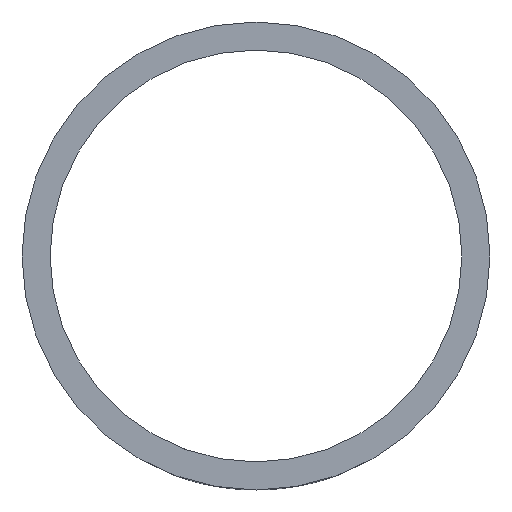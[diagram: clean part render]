
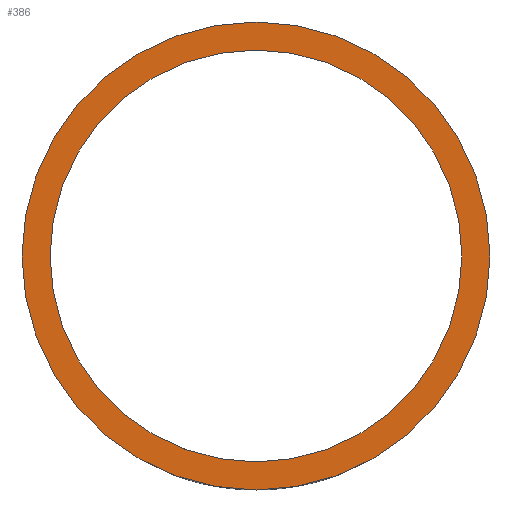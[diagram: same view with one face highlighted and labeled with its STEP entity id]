
A CAD part, left-side view. The second image highlights one B-rep face of the part: STEP entity #386.
In plain terms, the highlighted planar face has unit normal (-1, 0, 0).
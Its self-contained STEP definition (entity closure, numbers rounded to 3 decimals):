
#10 = VERTEX_POINT ( 'NONE', #191 ) ;
#64 = AXIS2_PLACEMENT_3D ( 'NONE', #73, #174, #550 ) ;
#65 = EDGE_LOOP ( 'NONE', ( #212, #592 ) ) ;
#73 = CARTESIAN_POINT ( 'NONE',  ( -100., 0., 0. ) ) ;
#81 = ORIENTED_EDGE ( 'NONE', *, *, #393, .F. ) ;
#101 = VERTEX_POINT ( 'NONE', #133 ) ;
#128 = CARTESIAN_POINT ( 'NONE',  ( -100., 0., 0. ) ) ;
#133 = CARTESIAN_POINT ( 'NONE',  ( -100., 0., -12.5 ) ) ;
#174 = DIRECTION ( 'NONE',  ( 1., 0., 0. ) ) ;
#178 = FACE_OUTER_BOUND ( 'NONE', #345, .T. ) ;
#184 = CIRCLE ( 'NONE', #633, 12.5 ) ;
#191 = CARTESIAN_POINT ( 'NONE',  ( -100., 0., 12.5 ) ) ;
#212 = ORIENTED_EDGE ( 'NONE', *, *, #377, .T. ) ;
#221 = DIRECTION ( 'NONE',  ( 0., 0., -1. ) ) ;
#222 = ORIENTED_EDGE ( 'NONE', *, *, #447, .F. ) ;
#265 = CARTESIAN_POINT ( 'NONE',  ( -100., 0., 0. ) ) ;
#284 = FACE_BOUND ( 'NONE', #65, .T. ) ;
#307 = CIRCLE ( 'NONE', #64, 12.5 ) ;
#345 = EDGE_LOOP ( 'NONE', ( #81, #222 ) ) ;
#348 = EDGE_CURVE ( 'NONE', #651, #408, #561, .T. ) ;
#375 = DIRECTION ( 'NONE',  ( 1., 0., 0. ) ) ;
#377 = EDGE_CURVE ( 'NONE', #408, #651, #507, .T. ) ;
#386 = ADVANCED_FACE ( 'NONE', ( #284, #178 ), #442, .F. ) ;
#393 = EDGE_CURVE ( 'NONE', #10, #101, #184, .T. ) ;
#408 = VERTEX_POINT ( 'NONE', #564 ) ;
#442 = PLANE ( 'NONE',  #670 ) ;
#447 = EDGE_CURVE ( 'NONE', #101, #10, #307, .T. ) ;
#457 = CARTESIAN_POINT ( 'NONE',  ( -100., 0., -11. ) ) ;
#499 = AXIS2_PLACEMENT_3D ( 'NONE', #265, #375, #539 ) ;
#507 = CIRCLE ( 'NONE', #647, 11. ) ;
#539 = DIRECTION ( 'NONE',  ( 0., 0., -1. ) ) ;
#549 = DIRECTION ( 'NONE',  ( 1., 0., 0. ) ) ;
#550 = DIRECTION ( 'NONE',  ( 0., 0., -1. ) ) ;
#551 = DIRECTION ( 'NONE',  ( 0., 0., -1. ) ) ;
#553 = DIRECTION ( 'NONE',  ( 0., 0., -1. ) ) ;
#561 = CIRCLE ( 'NONE', #499, 11. ) ;
#564 = CARTESIAN_POINT ( 'NONE',  ( -100., 0., 11. ) ) ;
#592 = ORIENTED_EDGE ( 'NONE', *, *, #348, .T. ) ;
#599 = DIRECTION ( 'NONE',  ( 1., 0., 0. ) ) ;
#603 = CARTESIAN_POINT ( 'NONE',  ( -100., 0., 0. ) ) ;
#633 = AXIS2_PLACEMENT_3D ( 'NONE', #603, #599, #553 ) ;
#638 = CARTESIAN_POINT ( 'NONE',  ( -100., 0., 0. ) ) ;
#647 = AXIS2_PLACEMENT_3D ( 'NONE', #638, #549, #221 ) ;
#651 = VERTEX_POINT ( 'NONE', #457 ) ;
#654 = DIRECTION ( 'NONE',  ( 1., 0., 0. ) ) ;
#670 = AXIS2_PLACEMENT_3D ( 'NONE', #128, #654, #551 ) ;
